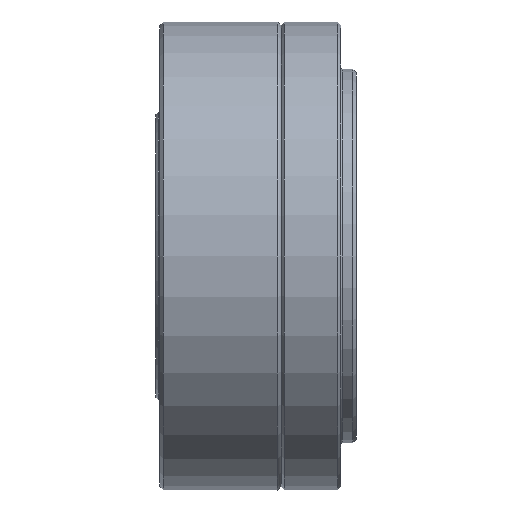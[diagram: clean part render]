
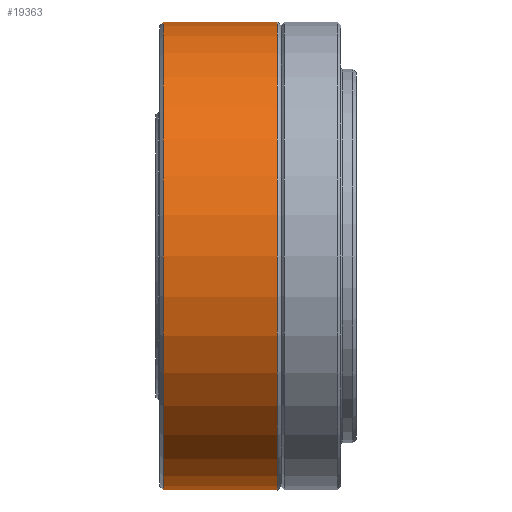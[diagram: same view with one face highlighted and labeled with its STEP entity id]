
A CAD part, front view. The second image highlights one B-rep face of the part: STEP entity #19363.
In plain terms, the highlighted cylindrical face has radius 31 mm (diameter 62 mm), a partial arc.
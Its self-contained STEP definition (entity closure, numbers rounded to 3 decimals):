
#18308=CARTESIAN_POINT('',(18.214,0.,0.));
#18309=DIRECTION('',(-1.,0.,0.));
#18310=DIRECTION('',(0.,0.,-1.));
#18311=AXIS2_PLACEMENT_3D('',#18308,#18309,#18310);
#18323=DIRECTION('',(-1.,0.,0.));
#18324=VECTOR('',#18323,15.112);
#18325=CARTESIAN_POINT('',(18.214,0.,
-31.));
#18326=LINE('',#18325,#18324);
#18327=DIRECTION('',(1.,0.,0.));
#18328=VECTOR('',#18327,15.112);
#18329=CARTESIAN_POINT('',(3.102,0.,31.));
#18330=LINE('',#18329,#18328);
#18335=CARTESIAN_POINT('',(3.102,0.,0.));
#18336=DIRECTION('',(1.,0.,0.));
#18337=DIRECTION('',(0.,0.,1.));
#18338=AXIS2_PLACEMENT_3D('',#18335,#18336,#18337);
#18969=CARTESIAN_POINT('',(18.214,0.,
-31.));
#18970=VERTEX_POINT('',#18969);
#18971=CARTESIAN_POINT('',(18.214,0.,
31.));
#18972=VERTEX_POINT('',#18971);
#18973=CARTESIAN_POINT('',(3.102,0.,31.));
#18974=VERTEX_POINT('',#18973);
#18975=CARTESIAN_POINT('',(3.102,0.,-31.));
#18976=VERTEX_POINT('',#18975);
#19351=CARTESIAN_POINT('',(18.214,0.,0.));
#19352=DIRECTION('',(-1.,0.,0.));
#19353=DIRECTION('',(0.,0.,1.));
#19354=AXIS2_PLACEMENT_3D('',#19351,#19352,#19353);
#19355=CYLINDRICAL_SURFACE('',#19354,31.);
#19356=ORIENTED_EDGE('',*,*,#19339,.T.);
#19358=ORIENTED_EDGE('',*,*,#19357,.F.);
#19359=ORIENTED_EDGE('',*,*,#19335,.T.);
#19360=ORIENTED_EDGE('',*,*,#19294,.F.);
#19361=EDGE_LOOP('',(#19356,#19358,#19359,#19360));
#19362=FACE_OUTER_BOUND('',#19361,.F.);
#18312=CIRCLE('',#18311,31.);
#18339=CIRCLE('',#18338,31.);
#19294=EDGE_CURVE('',#18970,#18972,#18312,.T.);
#19335=EDGE_CURVE('',#18974,#18972,#18330,.T.);
#19339=EDGE_CURVE('',#18970,#18976,#18326,.T.);
#19357=EDGE_CURVE('',#18974,#18976,#18339,.T.);
#19363=ADVANCED_FACE('',(#19362),#19355,.T.);
